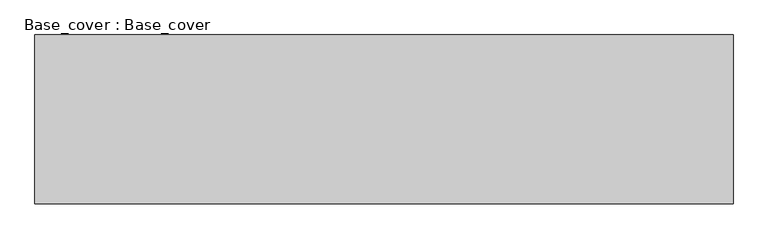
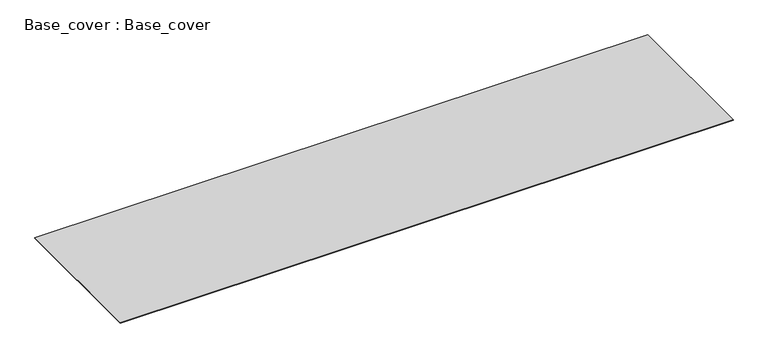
"""IFC4 building model written with IfcOpenShell, lengths in millimetres: proxy geometry, Base_cover : Base_cover."""

from ifc_helpers import new_model, si_unit, frame, origin, place, context, project, spatial, polyline, outline, extrude, source, transform, mapped, element, save


def base_cover_base_cover_3083e37a(model_context):
    return source(origin(), model_context, "Body", "SweptSolid", [
        extrude(outline(polyline([(6779.5, 1640.0), (6779.5, -1640.0), (-6779.5, -1640.0), (-6779.5, 1640.0), (6779.5, 1640.0)])), frame((0.0, 0.0, 381.0), z_axis=(0.0, 0.0, 1.0), x_axis=(1.0, 0.0, 0.0)), (0.0, 0.0, 1.0), 6.0),
    ])


if __name__ == "__main__":
    model = new_model("IFC4")
    model_context = context("Model", 3, world=origin())
    ifc_project = project(units=[si_unit("LENGTHUNIT", "METRE", prefix="MILLI")], contexts=[model_context])
    site = spatial("IfcSite", under=ifc_project)
    building = spatial("IfcBuilding", under=site)
    placement = place(None, origin())
    base_cover_base_cover_shape = base_cover_base_cover_3083e37a(model_context)
    element("IfcBuildingElementProxy", 1, Name="Base_cover : Base_cover", ObjectType="Base_cover : Base_cover", at=placement, inside=building, context=model_context, shape_type="MappedRepresentation", body=[
        mapped(base_cover_base_cover_shape, transform((0.0, 0.0, 0.0), x_axis=(1.0, 0.0, 0.0), y_axis=(0.0, 1.0, 0.0), z_axis=(0.0, 0.0, 1.0))),
    ])
    save(model, "model.ifc")
